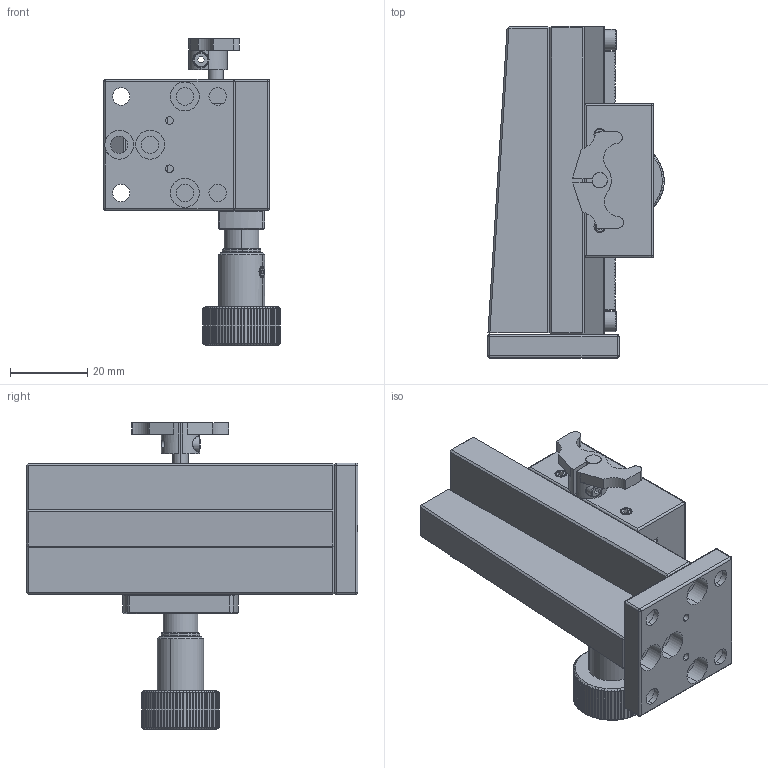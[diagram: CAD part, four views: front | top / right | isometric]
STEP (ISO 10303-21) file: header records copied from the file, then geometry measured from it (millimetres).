
FILE_DESCRIPTION (( 'STEP AP203' ), '1' );
FILE_NAME ('TGV34Z-24.STEP', '2017-02-21T09:06:29', ( '' ), ( '' ), 'SwSTEP 2.0', 'SolidWorks 2012', '' );
FILE_SCHEMA (( 'CONFIG_CONTROL_DESIGN' ));
Length unit declared in the file: millimetre
Products named in the file (1): TGV34Z-24
Bounding box: 45.7 x 86 x 79.47 mm (x, y, z)
Surface area: 27243.2 mm2 (no closed solid volume)
Topology: 0 solids, 21 shells, 646 faces, 2243 edges, 1572 vertices
Faces by surface type: plane 382, cylinder 209, cone 41, sphere 12, bspline 2
Entity records: 25717 total; most frequent: CARTESIAN_POINT 7004, ORIENTED_EDGE 3812, DIRECTION 3612, EDGE_CURVE 2229, VERTEX_POINT 1572, VECTOR 1372, LINE 1372, AXIS2_PLACEMENT_3D 1120
